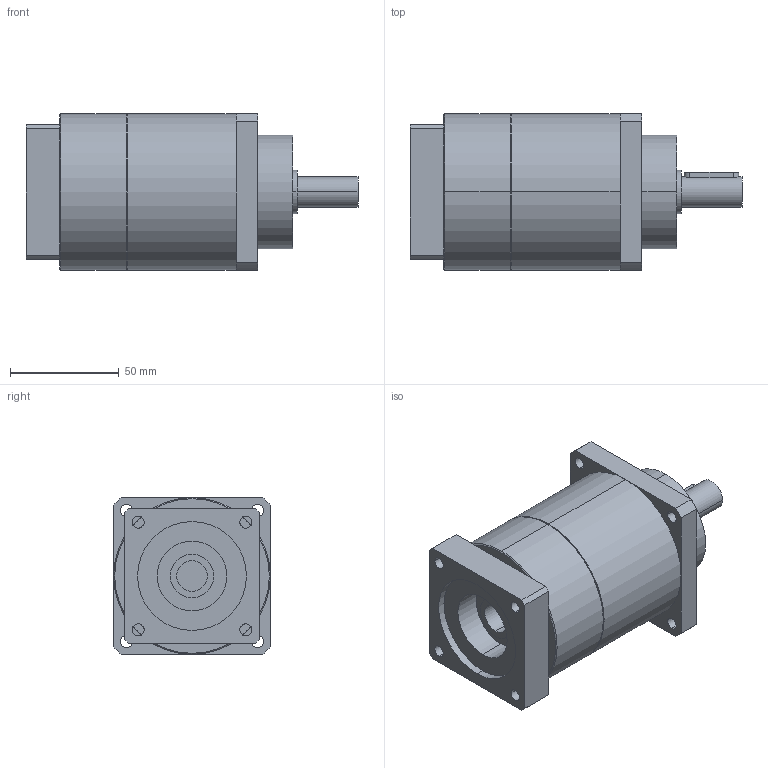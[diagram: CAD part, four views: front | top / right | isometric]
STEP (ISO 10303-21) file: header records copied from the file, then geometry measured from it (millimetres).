
FILE_DESCRIPTION(('CoCreate Modeling STEP Export'),'2;1');
FILE_NAME('GPT75_ig-9-12-16-20-25-28-35-40-50-70-100_14_B5T_14_P23.stp','2014-08-27T13:38:06',(''),(''),'CoCreate Modeling STEP processor for AP214 (Solid Model)','CoCreate Modeling 16.00C 25-Feb-2009 (C) Parametric Technology GmbH','');
FILE_SCHEMA(('AUTOMOTIVE_DESIGN { 1 0 10303 214 1 1 1 1 }'));
Length unit declared in the file: millimetre
Products named in the file (2): GPT75_ig-9-12-16-20-25-28-35-40-50-70-100_14_B5T_14_P23
Assembly tree (1 placements, depth 2):
  GPT75_ig-9-12-16-20-25-28-35-40-50-70-100_14_B5T_14_P23
    GPT75_ig-9-12-16-20-25-28-35-40-50-70-100_14_B5T_14_P23
Bounding box: 152.5 x 72 x 72 mm (x, y, z)
Volume: 456974.4 mm3; surface area: 45074.2 mm2
Topology: 1 solids, 1 shells, 88 faces, 226 edges, 145 vertices
Faces by surface type: cylinder 46, plane 38, cone 4
Entity records: 2676 total; most frequent: CARTESIAN_POINT 744, ORIENTED_EDGE 452, DIRECTION 334, EDGE_CURVE 226, VERTEX_POINT 145, AXIS2_PLACEMENT_3D 123, EDGE_LOOP 109, VECTOR 88
